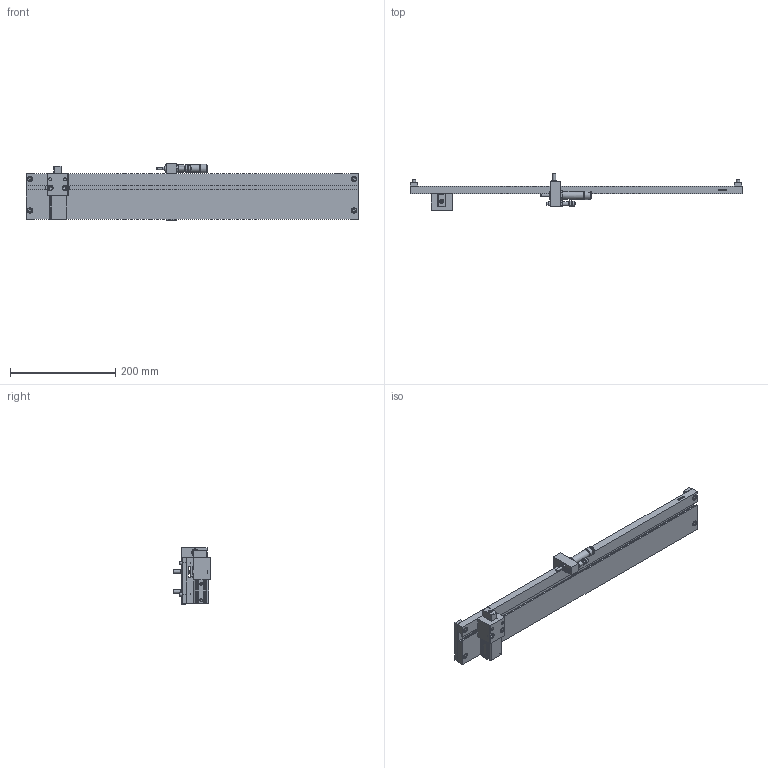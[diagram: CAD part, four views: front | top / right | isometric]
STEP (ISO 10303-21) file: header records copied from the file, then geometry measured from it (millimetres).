
FILE_DESCRIPTION((''),'2;1');
FILE_NAME('C:\Test\stp\4000043.stp','2008-03-20T18:03:41',('is'),(''),'Autodesk Inventor 10','Autodesk Inventor 10','');
FILE_SCHEMA(('AUTOMOTIVE_DESIGN { 1 0 10303 214 1 1 1 1 }'));
Length unit declared in the file: millimetre
Products named in the file (7): 4000043; 4000027; Abstandsleiste; 4000048; 4000047
Assembly tree (7 placements, depth 3):
  4000043
    4000027
    Abstandsleiste  x2
    4000048
    4000047
      4000047
      4000047
Bounding box: 630 x 72 x 107 mm (x, y, z)
Volume: 804105.3 mm3; surface area: 223407.9 mm2
Topology: 6 solids, 27 shells, 863 faces, 2011 edges, 1313 vertices
Faces by surface type: plane 404, bspline 273, cylinder 97, cone 70, torus 19
Full cylindrical faces by diameter (mm): 1.4 x1, 2 x1, 3.6 x1, 3.9 x2, 4 x7, 4.3 x1, 5.5 x1, 6 x10, 7 x3, 7.4 x1, 7.8 x2, 8 x4, 9 x4, 9.7 x2, 10 x9, 14 x4, 14.2 x1, 16 x1
Entity records: 28022 total; most frequent: CARTESIAN_POINT 10998, ORIENTED_EDGE 3416, DIRECTION 2909, EDGE_CURVE 1708, VERTEX_POINT 1231, EDGE_LOOP 1213, AXIS2_PLACEMENT_3D 1011, VECTOR 887
